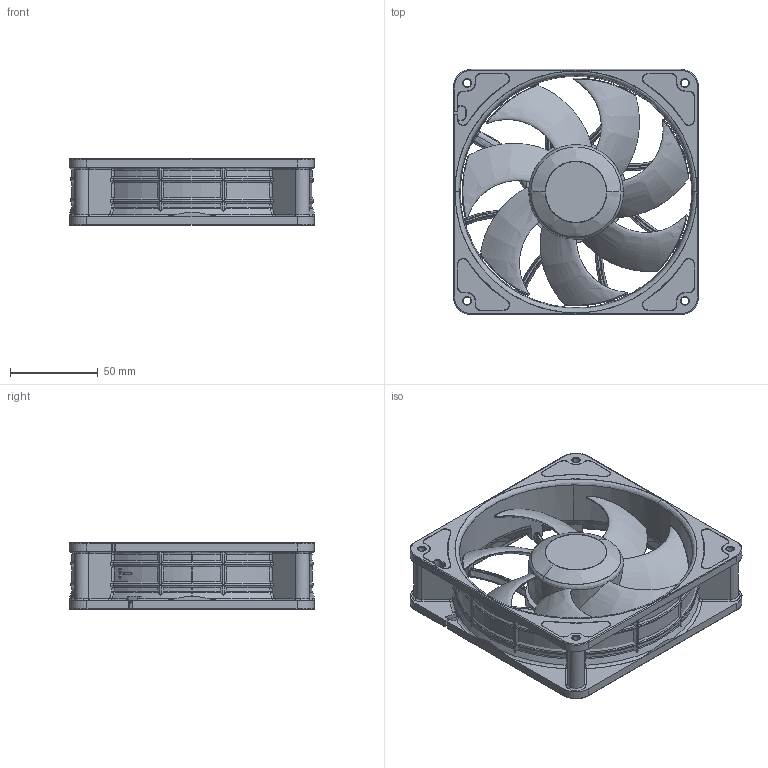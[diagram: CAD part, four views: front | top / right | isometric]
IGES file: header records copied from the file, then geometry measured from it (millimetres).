
Start section: SolidWorks IGES file using analytic representation for surfaces
Global section: file name: C:\Users\yamazaki-yoshihisa\Desktop\140x38RA_3D作成\営業用\140x38RA_ribbed.IGS; native system: SolidWorks 2019; preprocessor: SolidWorks 2019; author: Yamazaki-Yoshihisa; date: 220929.154145; units: millimetre
Bounding box: 140 x 140 x 38 mm (x, y, z)
Surface area: 91865.4 mm2 (no closed solid volume)
Topology: 0 solids, 0 shells, 1237 faces, 13301 edges, 13274 vertices
Faces by surface type: bspline 862, revolution 375
